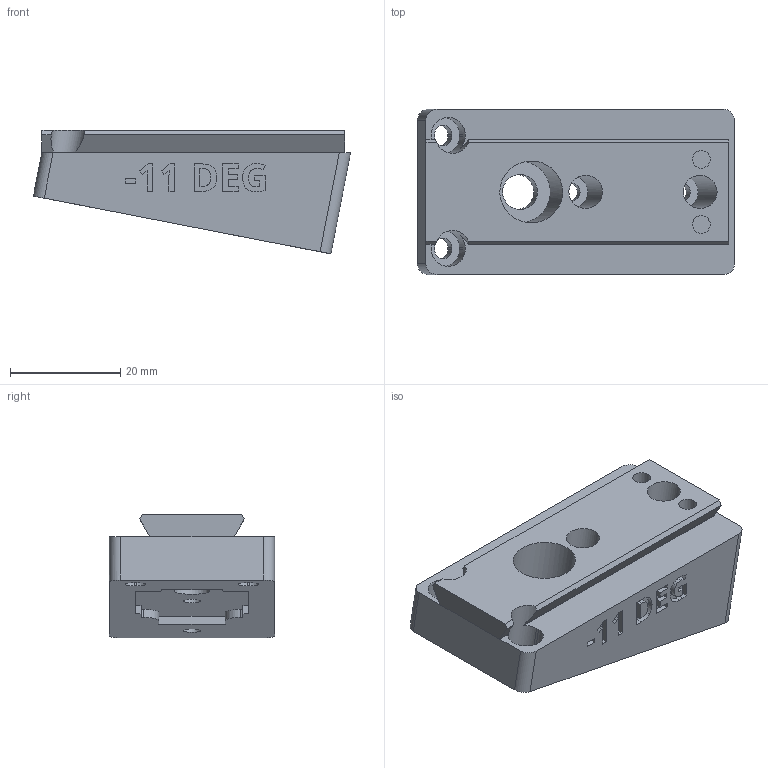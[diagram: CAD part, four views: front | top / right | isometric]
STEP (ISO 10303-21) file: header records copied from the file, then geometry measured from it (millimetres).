
FILE_DESCRIPTION(/* description */ ('STEP AP242 Edition 2','CAx-IF Rec.Pracs.---Representation and Presentation of Product Manufacturing Information (PMI)---4.0---2014-10-13','CAx-IF Rec.Pracs.---3D Tessellated Geometry---0.4---2014-09-14','2;1','CAx-IF Rec.Pracs.---User Defined Attributes---1.5---2016-08-15'),/* implementation_level */ '2;1');
FILE_NAME(/* name */ 'Camera Wedges - CAMERA MOUNTING WEDGE, NEG, -11 DEG',/* time_stamp */ '2026-08-11T00:06:13Z',/* author */ (''),/* organization */ (''),/* preprocessor_version */ 'ST-DEVELOPER v20',/* originating_system */ 'ONSHAPE BY PTC INC, 1.219',/* authorisation */ ' ');
FILE_SCHEMA (('AP242_MANAGED_MODEL_BASED_3D_ENGINEERING_MIM_LF { 1 0 10303 442 3 1 4 }'));
Length unit declared in the file: metre
Products named in the file (1): CAMERA MOUNTING WEDGE, NEG, -11 DEG
Bounding box: 57.56 x 30 x 22.46 mm (x, y, z)
Volume: 22322.2 mm3; surface area: 8040 mm2
Topology: 1 solids, 1 shells, 225 faces, 607 edges, 404 vertices
Faces by surface type: plane 157, cylinder 36, bspline 32
Full cylindrical faces by diameter (mm): 3.2 x4, 6 x2, 6.4 x1, 11.2 x1
Entity records: 7119 total; most frequent: CARTESIAN_POINT 1581, ORIENTED_EDGE 1198, DIRECTION 1007, EDGE_CURVE 599, LINE 451, VECTOR 451, VERTEX_POINT 404, AXIS2_PLACEMENT_3D 278
